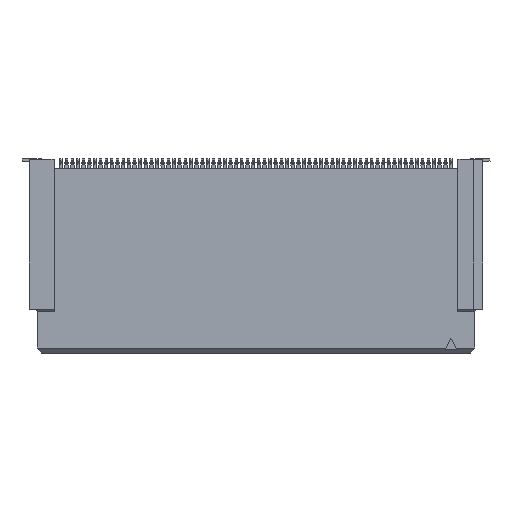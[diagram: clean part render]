
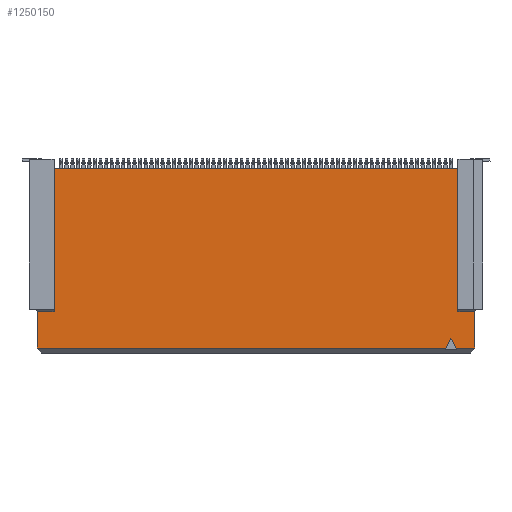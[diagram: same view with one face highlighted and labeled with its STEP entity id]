
A CAD part, front view. The second image highlights one B-rep face of the part: STEP entity #1250150.
In plain terms, the highlighted planar face has unit normal (0, -1, 0).
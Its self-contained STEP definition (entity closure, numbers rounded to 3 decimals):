
#3000=CARTESIAN_POINT('',(8.88,-1.54,
-5.662));
#3010=DIRECTION('',(-1.,0.,0.));
#3020=VECTOR('',#3010,1.);
#3030=LINE('',#3000,#3020);
#3040=CARTESIAN_POINT('',(8.33,-1.54,
-5.662));
#3050=VERTEX_POINT('',#3040);
#3060=CARTESIAN_POINT('',(5.2,-1.54,
-5.662));
#3070=VERTEX_POINT('',#3060);
#3080=EDGE_CURVE('',#3050,#3070,#3030,.T.);
#16470=CARTESIAN_POINT('',(5.2,-1.54,
-6.412));
#16480=DIRECTION('',(0.,0.,1.));
#16490=VECTOR('',#16480,1.);
#16500=LINE('',#16470,#16490);
#16510=CARTESIAN_POINT('',(5.2,-1.54,
-7.162));
#16520=VERTEX_POINT('',#16510);
#16530=EDGE_CURVE('',#16520,#3070,#16500,.T.);
#87340=CARTESIAN_POINT('',(8.48,-1.54,
-5.722));
#87350=VERTEX_POINT('',#87340);
#87380=CARTESIAN_POINT('',(1.,-1.54,
-2.73));
#87390=DIRECTION('',(0.928,0.,
-0.371));
#87400=VECTOR('',#87390,1.);
#87410=LINE('',#87380,#87400);
#87420=EDGE_CURVE('',#3050,#87350,#87410,.T.);
#96480=CARTESIAN_POINT('',(7.58,-1.54,
-7.772));
#96490=VERTEX_POINT('',#96480);
#96520=CARTESIAN_POINT('',(0.,-1.54,
-11.562));
#96530=DIRECTION('',(-0.894,0.,
-0.447));
#96540=VECTOR('',#96530,1.);
#96550=LINE('',#96520,#96540);
#96560=CARTESIAN_POINT('',(8.48,-1.54,
-7.322));
#96570=VERTEX_POINT('',#96560);
#96580=EDGE_CURVE('',#96570,#96490,#96550,.T.);
#107950=CARTESIAN_POINT('',(-7.43,-1.54,
-7.162));
#107960=VERTEX_POINT('',#107950);
#107990=CARTESIAN_POINT('',(-7.43,-1.54,
-27.5));
#108000=DIRECTION('',(0.,0.,-1.));
#108010=VECTOR('',#108000,1.);
#108020=LINE('',#107990,#108010);
#108030=CARTESIAN_POINT('',(-7.43,-1.54,
-42.882));
#108040=VERTEX_POINT('',#108030);
#108050=EDGE_CURVE('',#107960,#108040,#108020,.T.);
#239590=CARTESIAN_POINT('',(8.48,-1.54,
-8.222));
#239600=VERTEX_POINT('',#239590);
#239630=CARTESIAN_POINT('',(0.,-1.54,
-3.982));
#239640=DIRECTION('',(0.894,0.,
-0.447));
#239650=VECTOR('',#239640,1.);
#239660=LINE('',#239630,#239650);
#239670=EDGE_CURVE('',#96490,#239600,#239660,.T.);
#240470=CARTESIAN_POINT('',(-6.43,-1.54,
-7.162));
#240480=DIRECTION('',(1.,0.,0.));
#240490=VECTOR('',#240480,1.);
#240500=LINE('',#240470,#240490);
#240510=EDGE_CURVE('',#107960,#16520,#240500,.T.);
#1247380=CARTESIAN_POINT('',(5.2,-1.54,
-44.382));
#1247390=VERTEX_POINT('',#1247380);
#1248380=CARTESIAN_POINT('',(5.2,-1.54,
-42.882));
#1248390=VERTEX_POINT('',#1248380);
#1248420=CARTESIAN_POINT('',(5.2,-1.54,
-43.632));
#1248430=DIRECTION('',(0.,0.,-1.));
#1248440=VECTOR('',#1248430,1.);
#1248450=LINE('',#1248420,#1248440);
#1248460=EDGE_CURVE('',#1248390,#1247390,#1248450,.T.);
#1249340=CARTESIAN_POINT('',(8.33,-1.54,
-44.382));
#1249350=VERTEX_POINT('',#1249340);
#1249380=CARTESIAN_POINT('',(1.,-1.54,
-47.314));
#1249390=DIRECTION('',(0.928,0.,
0.371));
#1249400=VECTOR('',#1249390,1.);
#1249410=LINE('',#1249380,#1249400);
#1249420=CARTESIAN_POINT('',(8.48,-1.54,
-44.322));
#1249430=VERTEX_POINT('',#1249420);
#1249440=EDGE_CURVE('',#1249350,#1249430,#1249410,.T.);
#1249710=CARTESIAN_POINT('',(8.88,-1.54,
-44.382));
#1249720=DIRECTION('',(-1.,0.,0.));
#1249730=VECTOR('',#1249720,1.);
#1249740=LINE('',#1249710,#1249730);
#1249750=EDGE_CURVE('',#1249350,#1247390,#1249740,.T.);
#1249800=CARTESIAN_POINT('',(-2.93,-1.54,
-25.022));
#1249810=DIRECTION('',(0.,-1.,0.));
#1249820=DIRECTION('',(1.,0.,0.));
#1249830=AXIS2_PLACEMENT_3D('',#1249800,#1249810,#1249820);
#1249840=PLANE('',#1249830);
#1249850=ORIENTED_EDGE('',*,*,#108050,.T.);
#1249860=ORIENTED_EDGE('',*,*,#240510,.F.);
#1249870=ORIENTED_EDGE('',*,*,#16530,.F.);
#1249880=ORIENTED_EDGE('',*,*,#3080,.T.);
#1249890=ORIENTED_EDGE('',*,*,#87420,.F.);
#1249900=CARTESIAN_POINT('',(8.48,-1.54,
-29.452));
#1249910=DIRECTION('',(0.,0.,-1.));
#1249920=VECTOR('',#1249910,1.);
#1249930=LINE('',#1249900,#1249920);
#1249940=EDGE_CURVE('',#87350,#96570,#1249930,.T.);
#1249950=ORIENTED_EDGE('',*,*,#1249940,.F.);
#1249960=ORIENTED_EDGE('',*,*,#96580,.F.);
#1249970=ORIENTED_EDGE('',*,*,#239670,.F.);
#1249980=CARTESIAN_POINT('',(8.48,-1.54,
-29.452));
#1249990=DIRECTION('',(0.,0.,-1.));
#1250000=VECTOR('',#1249990,1.);
#1250010=LINE('',#1249980,#1250000);
#1250020=EDGE_CURVE('',#239600,#1249430,#1250010,.T.);
#1250030=ORIENTED_EDGE('',*,*,#1250020,.F.);
#1250040=ORIENTED_EDGE('',*,*,#1249440,.T.);
#1250050=ORIENTED_EDGE('',*,*,#1249750,.F.);
#1250060=ORIENTED_EDGE('',*,*,#1248460,.T.);
#1250070=CARTESIAN_POINT('',(6.,-1.54,
-42.882));
#1250080=DIRECTION('',(-1.,0.,0.));
#1250090=VECTOR('',#1250080,1.);
#1250100=LINE('',#1250070,#1250090);
#1250110=EDGE_CURVE('',#1248390,#108040,#1250100,.T.);
#1250120=ORIENTED_EDGE('',*,*,#1250110,.F.);
#1250130=EDGE_LOOP('',(#1250120,#1250060,#1250050,#1250040,#1250030,
#1249970,#1249960,#1249950,#1249890,#1249880,#1249870,#1249860,#1249850)
);
#1250140=FACE_OUTER_BOUND('',#1250130,.T.);
#1250150=ADVANCED_FACE('',(#1250140),#1249840,.T.);
